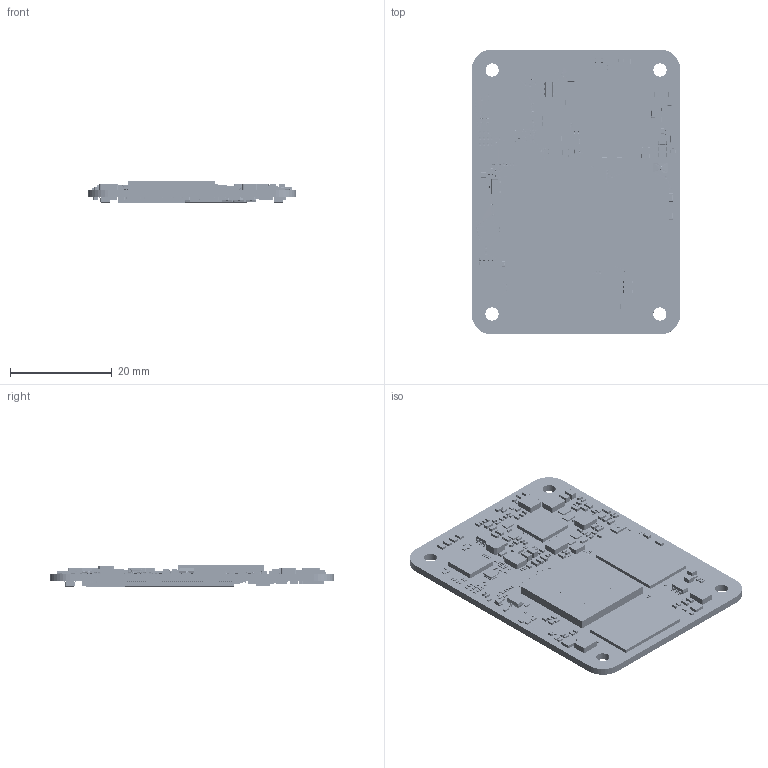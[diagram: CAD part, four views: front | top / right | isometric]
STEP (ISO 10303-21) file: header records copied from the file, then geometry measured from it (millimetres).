
FILE_DESCRIPTION((''),'2;1');
FILE_NAME('CM5_PCBA','2024-03-14T15:06:47',('admin'),(''),'CREO PARAMETRIC BY PTC INC, 2023072','CREO PARAMETRIC BY PTC INC, 2023072','');
FILE_SCHEMA(('CONFIG_CONTROL_DESIGN','SHAPE_APPEARANCE_LAYERS_GROUPS'));
Products named in the file (1): CM5_PCBA
Bounding box: 41 x 56 x 4.27 mm (x, y, z)
Volume: 3985.5 mm3; surface area: 7662.2 mm2
Topology: 2 solids, 208 shells, 19848 faces, 47944 edges, 27240 vertices
Faces by surface type: plane 9238, cylinder 8102, sphere 2452, torus 28, cone 20, extrusion 8
Entity records: 708036 total; most frequent: CARTESIAN_POINT 100982, DIRECTION 98089, ORIENTED_EDGE 93410, EDGE_CURVE 46705, AXIS2_PLACEMENT_3D 33499, VECTOR 31091, LINE 31083, VERTEX_POINT 27240
